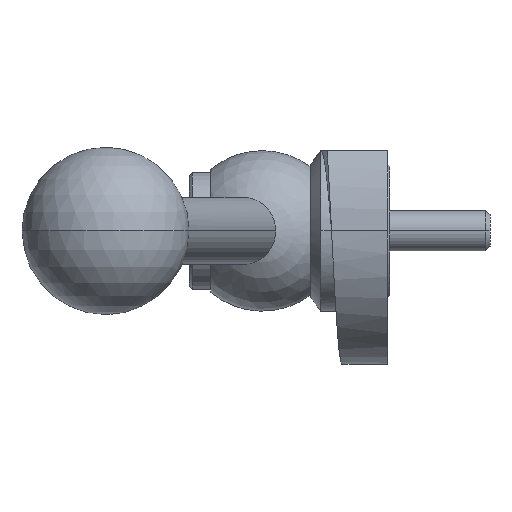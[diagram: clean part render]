
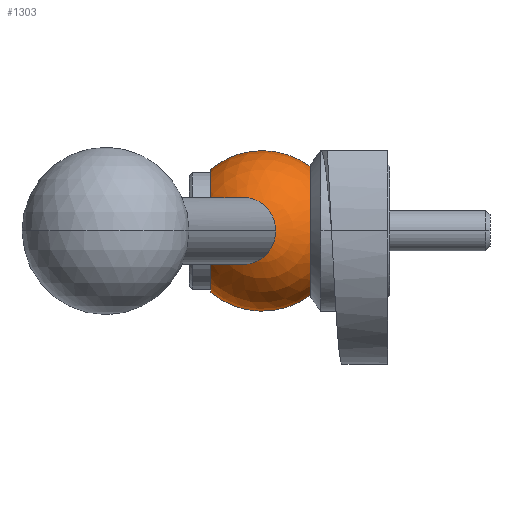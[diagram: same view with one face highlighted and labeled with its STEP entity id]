
A CAD part, left-side view. The second image highlights one B-rep face of the part: STEP entity #1303.
In plain terms, the highlighted spherical face has radius 12 mm.
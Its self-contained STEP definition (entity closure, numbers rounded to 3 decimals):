
#100 = EDGE_LOOP ( 'NONE', ( #1079, #1517, #819, #880 ) ) ;
#118 = DIRECTION ( 'NONE',  ( -1., 0., 0. ) ) ;
#127 = CARTESIAN_POINT ( 'NONE',  ( -10.537, 11.573, 0. ) ) ;
#137 = DIRECTION ( 'NONE',  ( 0., -1., 0. ) ) ;
#140 = FACE_BOUND ( 'NONE', #418, .T. ) ;
#149 = DIRECTION ( 'NONE',  ( 0., 0., -1. ) ) ;
#168 = EDGE_CURVE ( 'NONE', #1350, #1063, #1311, .T. ) ;
#202 = AXIS2_PLACEMENT_3D ( 'NONE', #1845, #118, #277 ) ;
#216 = VERTEX_POINT ( 'NONE', #1220 ) ;
#228 = EDGE_CURVE ( 'NONE', #216, #646, #1471, .T. ) ;
#265 = CARTESIAN_POINT ( 'NONE',  ( 0., 1.5, -9.562 ) ) ;
#277 = DIRECTION ( 'NONE',  ( 0., 0., 1. ) ) ;
#285 = FACE_OUTER_BOUND ( 'NONE', #100, .T. ) ;
#324 = CARTESIAN_POINT ( 'NONE',  ( 0., 8.75, 0. ) ) ;
#414 = EDGE_CURVE ( 'NONE', #953, #1350, #2036, .T. ) ;
#418 = EDGE_LOOP ( 'NONE', ( #1017, #1760 ) ) ;
#462 = DIRECTION ( 'NONE',  ( 0., 0., -1. ) ) ;
#472 = DIRECTION ( 'NONE',  ( 0., 0., -1. ) ) ;
#500 = DIRECTION ( 'NONE',  ( 0.966, -0.259, 0. ) ) ;
#642 = DIRECTION ( 'NONE',  ( 0., -1., 0. ) ) ;
#646 = VERTEX_POINT ( 'NONE', #1743 ) ;
#650 = CARTESIAN_POINT ( 'NONE',  ( 0., 1.5, 0. ) ) ;
#679 = AXIS2_PLACEMENT_3D ( 'NONE', #1494, #1021, #1647 ) ;
#709 = AXIS2_PLACEMENT_3D ( 'NONE', #650, #137, #472 ) ;
#724 = DIRECTION ( 'NONE',  ( 0.966, -0.259, 0. ) ) ;
#819 = ORIENTED_EDGE ( 'NONE', *, *, #1625, .F. ) ;
#838 = EDGE_CURVE ( 'NONE', #646, #216, #1170, .T. ) ;
#878 = CIRCLE ( 'NONE', #709, 9.562 ) ;
#880 = ORIENTED_EDGE ( 'NONE', *, *, #1686, .F. ) ;
#907 = DIRECTION ( 'NONE',  ( 0.259, 0.966, 0. ) ) ;
#920 = SPHERICAL_SURFACE ( 'NONE', #202, 12. ) ;
#953 = VERTEX_POINT ( 'NONE', #1336 ) ;
#1017 = ORIENTED_EDGE ( 'NONE', *, *, #838, .T. ) ;
#1021 = DIRECTION ( 'NONE',  ( -1., 0., 0. ) ) ;
#1063 = VERTEX_POINT ( 'NONE', #265 ) ;
#1079 = ORIENTED_EDGE ( 'NONE', *, *, #414, .T. ) ;
#1123 = DIRECTION ( 'NONE',  ( 1., 0., 0. ) ) ;
#1160 = DIRECTION ( 'NONE',  ( 0.259, 0.966, 0. ) ) ;
#1170 = CIRCLE ( 'NONE', #1805, 5. ) ;
#1220 = CARTESIAN_POINT ( 'NONE',  ( -11.831, 6.744, 0. ) ) ;
#1221 = CARTESIAN_POINT ( 'NONE',  ( 0., 1.5, 9.562 ) ) ;
#1251 = CARTESIAN_POINT ( 'NONE',  ( 0., 16.5, -9.162 ) ) ;
#1275 = AXIS2_PLACEMENT_3D ( 'NONE', #2049, #642, #149 ) ;
#1303 = ADVANCED_FACE ( 'NONE', ( #140, #285 ), #920, .T. ) ;
#1311 = CIRCLE ( 'NONE', #679, 12. ) ;
#1336 = CARTESIAN_POINT ( 'NONE',  ( 0., 16.5, 9.162 ) ) ;
#1350 = VERTEX_POINT ( 'NONE', #1251 ) ;
#1366 = VERTEX_POINT ( 'NONE', #1221 ) ;
#1471 = CIRCLE ( 'NONE', #1562, 5. ) ;
#1494 = CARTESIAN_POINT ( 'NONE',  ( 0., 8.75, 0. ) ) ;
#1517 = ORIENTED_EDGE ( 'NONE', *, *, #168, .T. ) ;
#1562 = AXIS2_PLACEMENT_3D ( 'NONE', #127, #724, #907 ) ;
#1625 = EDGE_CURVE ( 'NONE', #1366, #1063, #878, .T. ) ;
#1647 = DIRECTION ( 'NONE',  ( 0., 0., 1. ) ) ;
#1686 = EDGE_CURVE ( 'NONE', #953, #1366, #1741, .T. ) ;
#1741 = CIRCLE ( 'NONE', #1969, 12. ) ;
#1743 = CARTESIAN_POINT ( 'NONE',  ( -9.243, 16.403, 0. ) ) ;
#1760 = ORIENTED_EDGE ( 'NONE', *, *, #228, .T. ) ;
#1805 = AXIS2_PLACEMENT_3D ( 'NONE', #2062, #500, #1160 ) ;
#1845 = CARTESIAN_POINT ( 'NONE',  ( 0., 8.75, 0. ) ) ;
#1969 = AXIS2_PLACEMENT_3D ( 'NONE', #324, #1123, #462 ) ;
#2036 = CIRCLE ( 'NONE', #1275, 9.162 ) ;
#2049 = CARTESIAN_POINT ( 'NONE',  ( 0., 16.5, 0. ) ) ;
#2062 = CARTESIAN_POINT ( 'NONE',  ( -10.537, 11.573, 0. ) ) ;
